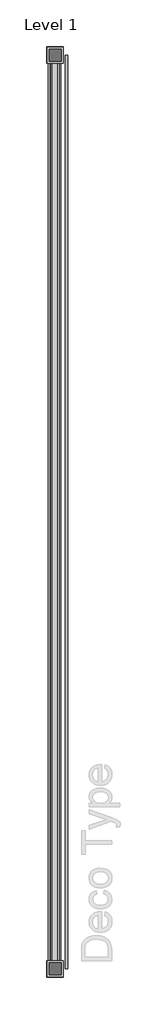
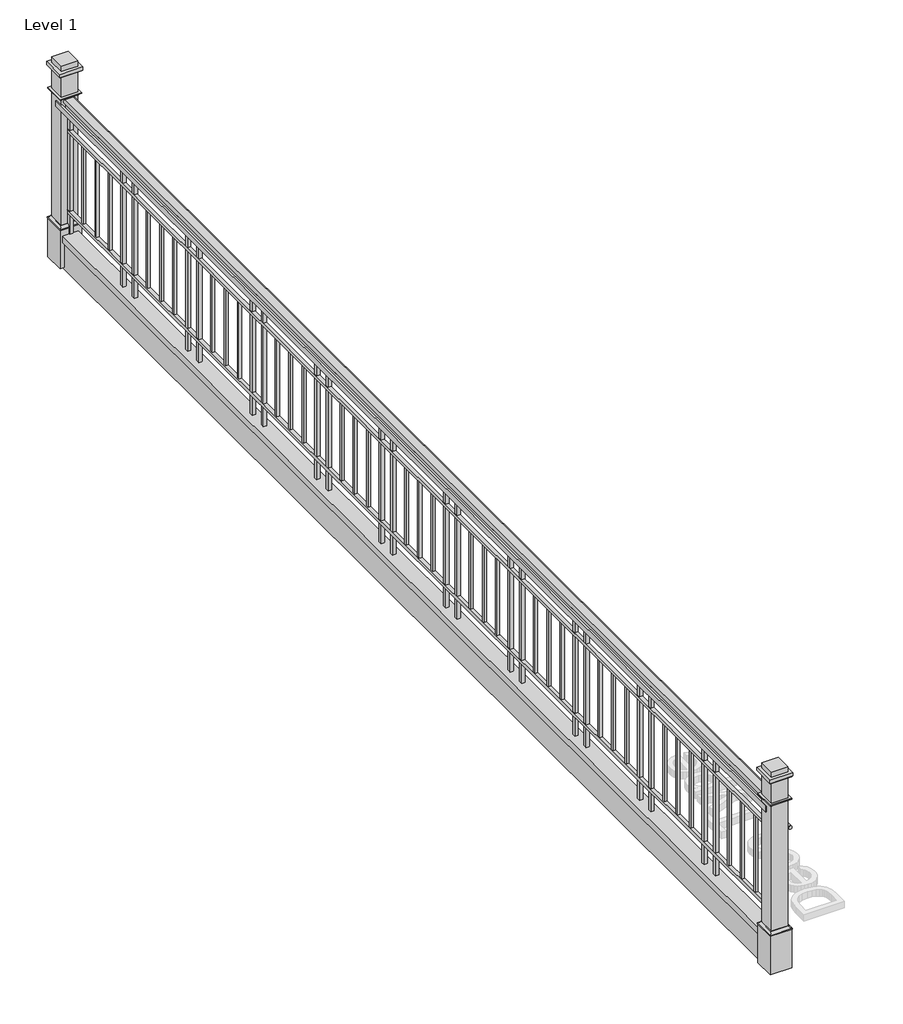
# One storey, part 1 of 14: 1 railing.
"""IFC4 building model written with IfcOpenShell, lengths in millimetres."""

from ifc_helpers import new_model, si_unit, point, frame, frame_2d, origin, place, context, project, spatial, polyline, circle_curve, ellipse_curve, trimmed, segment, composite_curve, outline, extrude, faceted_brep, element, save
from ifc_brep_helpers import plane_surface, revolved_surface, advanced_brep

model = new_model("IFC4")

# Units and contexts
model_context = context("Model", 3, world=origin())
ifc_project = project(units=[si_unit("LENGTHUNIT", "METRE", prefix="MILLI")], contexts=[model_context])

# Site, building, storey
site = spatial("IfcSite", under=ifc_project)
building = spatial("IfcBuilding", under=site)
storey = spatial("IfcBuildingStorey", under=building, Name="Level 1", Elevation=0.0)

# Railing
placement = place(None, origin())
element("IfcRailing", 1, ObjectType="Deco Type", at=placement, inside=storey, context=model_context, shape_type="SolidModel", body=[
    extrude(outline(composite_curve([segment(trimmed(circle_curve(frame_2d((838.2, -18190.5572428)), 12.7), [point((838.2, -18203.2572428))], [point((838.2, -18177.8572428))], False, "CARTESIAN"), True, "CONTINUOUS"), segment(trimmed(circle_curve(frame_2d((838.2, -18190.5572428)), 12.7), [point((838.2, -18177.8572428))], [point((838.2, -18203.2572428))], False, "CARTESIAN"), True, "CONTINUOUS")], self_intersect=False)), frame((0.0, -14575.1393828, 0.0), z_axis=(0.0, 1.0, 0.0), x_axis=(0.0, 0.0, 1.0)), (0.0, 0.0, 1.0), 9144.0),
    extrude(outline(composite_curve([segment(polyline([(1098.55, -18276.0356152), (1098.55, -18339.3853678)]), True, "CONTINUOUS"), segment(trimmed(circle_curve(frame_2d((1087.4058145, -18339.3853678)), 11.1441855), [point((1098.55, -18339.3853678))], [point((1076.261629, -18339.3853678))], False, "CARTESIAN"), True, "CONTINUOUS"), segment(polyline([(1076.261629, -18339.3853678), (1066.8, -18339.3853678), (1066.8, -18276.0356152), (1076.3248415, -18276.0356152)]), True, "CONTINUOUS"), segment(trimmed(circle_curve(frame_2d((1087.4374207, -18276.0356152)), 11.1125793), [point((1076.3248415, -18276.0356152))], [point((1098.55, -18276.0356152))], False, "CARTESIAN"), True, "CONTINUOUS")], self_intersect=False)), frame((0.0, -14575.1393828, 0.0), z_axis=(0.0, 1.0, 0.0), x_axis=(0.0, 0.0, 1.0)), (0.0, 0.0, 1.0), 9144.0),
    extrude(outline(polyline([(-18333.1104915, -5431.1393828), (-18320.4104915, -5431.1393828), (-18320.4104915, -14575.1393828), (-18333.1104915, -14575.1393828), (-18333.1104915, -5431.1393828)])), frame((0.0, 0.0, 1022.35), z_axis=(0.0, 0.0, 1.0), x_axis=(1.0, 0.0, 0.0)), (0.0, 0.0, 1.0), 44.45),
    extrude(outline(polyline([(-18371.2104915, -5431.1393828), (-18358.5104915, -5431.1393828), (-18358.5104915, -14575.1393828), (-18371.2104915, -14575.1393828), (-18371.2104915, -5431.1393828)])), frame((0.0, 0.0, 1022.35), z_axis=(0.0, 0.0, 1.0), x_axis=(1.0, 0.0, 0.0)), (0.0, 0.0, 1.0), 44.45),
    extrude(outline(polyline([(-18320.3353678, -5431.1393828), (-18294.9353678, -5431.1393828), (-18294.9353678, -14575.1393828), (-18320.3353678, -14575.1393828), (-18320.3353678, -5431.1393828)])), frame((0.0, 0.0, 838.2), z_axis=(0.0, 0.0, 1.0), x_axis=(1.0, 0.0, 0.0)), (0.0, 0.0, 1.0), 25.4),
    extrude(outline(polyline([(-18320.3353678, -5431.1393828), (-18294.9353678, -5431.1393828), (-18294.9353678, -14575.1393828), (-18320.3353678, -14575.1393828), (-18320.3353678, -5431.1393828)])), frame((0.0, 0.0, 203.2), z_axis=(0.0, 0.0, 1.0), x_axis=(1.0, 0.0, 0.0)), (0.0, 0.0, 1.0), 25.4),
    extrude(outline(polyline([(49.0362864, -18248.9729915), (49.0362864, -18366.4479915), (0.0, -18366.4479915), (0.0, -18353.7479915), (36.3362864, -18353.7479915), (36.3362864, -18261.6729915), (0.0, -18261.6729915), (0.0, -18248.9729915), (49.0362864, -18248.9729915)])), frame((0.0, -14575.1393828, 0.0), z_axis=(0.0, 1.0, 0.0), x_axis=(0.0, 0.0, 1.0)), (0.0, 0.0, 1.0), 9144.0),
    extrude(outline(polyline([(-18353.7479915, -5431.1393828), (-18261.6729915, -5431.1393828), (-18261.6729915, -14575.1393828), (-18353.7479915, -14575.1393828), (-18353.7479915, -5431.1393828)])), frame((0.0, 0.0, -217.6637136), z_axis=(0.0, 0.0, 1.0), x_axis=(1.0, 0.0, 0.0)), (0.0, 0.0, 1.0), 254.0),
    extrude(outline(polyline([(-18317.5572428, -14489.0917892), (-18292.1572428, -14489.0917892), (-18292.1572428, -14514.4917892), (-18317.5572428, -14514.4917892), (-18317.5572428, -14489.0917892)])), frame((0.0, 0.0, 49.0362864), z_axis=(0.0, 0.0, 1.0), x_axis=(1.0, 0.0, 0.0)), (0.0, 0.0, 1.0), 1017.7637136),
    extrude(outline(polyline([(-18314.3822428, -14321.1224042), (-18295.3322428, -14321.1224042), (-18295.3322428, -14340.1724042), (-18314.3822428, -14340.1724042), (-18314.3822428, -14321.1224042)])), frame((0.0, 0.0, 228.6), z_axis=(0.0, 0.0, 1.0), x_axis=(1.0, 0.0, 0.0)), (0.0, 0.0, 1.0), 609.6),
    extrude(outline(polyline([(-18314.3822428, -14149.9780192), (-18295.3322428, -14149.9780192), (-18295.3322428, -14169.0280192), (-18314.3822428, -14169.0280192), (-18314.3822428, -14149.9780192)])), frame((0.0, 0.0, 228.6), z_axis=(0.0, 0.0, 1.0), x_axis=(1.0, 0.0, 0.0)), (0.0, 0.0, 1.0), 609.6),
    extrude(outline(polyline([(-18314.3822428, -13978.8336342), (-18295.3322428, -13978.8336342), (-18295.3322428, -13997.8836342), (-18314.3822428, -13997.8836342), (-18314.3822428, -13978.8336342)])), frame((0.0, 0.0, 228.6), z_axis=(0.0, 0.0, 1.0), x_axis=(1.0, 0.0, 0.0)), (0.0, 0.0, 1.0), 609.6),
    extrude(outline(polyline([(-18317.5572428, -13804.5142491), (-18292.1572428, -13804.5142491), (-18292.1572428, -13829.9142491), (-18317.5572428, -13829.9142491), (-18317.5572428, -13804.5142491)])), frame((0.0, 0.0, 49.0362864), z_axis=(0.0, 0.0, 1.0), x_axis=(1.0, 0.0, 0.0)), (0.0, 0.0, 1.0), 1017.7637136),
    extrude(outline(polyline([(-18317.5572428, -13657.819062), (-18292.1572428, -13657.819062), (-18292.1572428, -13683.219062), (-18317.5572428, -13683.219062), (-18317.5572428, -13657.819062)])), frame((0.0, 0.0, 49.0362864), z_axis=(0.0, 0.0, 1.0), x_axis=(1.0, 0.0, 0.0)), (0.0, 0.0, 1.0), 1017.7637136),
    extrude(outline(polyline([(-18314.3822428, -13489.8496769), (-18295.3322428, -13489.8496769), (-18295.3322428, -13508.8996769), (-18314.3822428, -13508.8996769), (-18314.3822428, -13489.8496769)])), frame((0.0, 0.0, 228.6), z_axis=(0.0, 0.0, 1.0), x_axis=(1.0, 0.0, 0.0)), (0.0, 0.0, 1.0), 609.6),
    extrude(outline(polyline([(-18314.3822428, -13318.7052919), (-18295.3322428, -13318.7052919), (-18295.3322428, -13337.7552919), (-18314.3822428, -13337.7552919), (-18314.3822428, -13318.7052919)])), frame((0.0, 0.0, 228.6), z_axis=(0.0, 0.0, 1.0), x_axis=(1.0, 0.0, 0.0)), (0.0, 0.0, 1.0), 609.6),
    extrude(outline(polyline([(-18314.3822428, -13147.5609069), (-18295.3322428, -13147.5609069), (-18295.3322428, -13166.6109069), (-18314.3822428, -13166.6109069), (-18314.3822428, -13147.5609069)])), frame((0.0, 0.0, 228.6), z_axis=(0.0, 0.0, 1.0), x_axis=(1.0, 0.0, 0.0)), (0.0, 0.0, 1.0), 609.6),
    extrude(outline(polyline([(-18317.5572428, -12973.2415219), (-18292.1572428, -12973.2415219), (-18292.1572428, -12998.6415219), (-18317.5572428, -12998.6415219), (-18317.5572428, -12973.2415219)])), frame((0.0, 0.0, 49.0362864), z_axis=(0.0, 0.0, 1.0), x_axis=(1.0, 0.0, 0.0)), (0.0, 0.0, 1.0), 1017.7637136),
    extrude(outline(polyline([(-18317.5572428, -12826.5463347), (-18292.1572428, -12826.5463347), (-18292.1572428, -12851.9463347), (-18317.5572428, -12851.9463347), (-18317.5572428, -12826.5463347)])), frame((0.0, 0.0, 49.0362864), z_axis=(0.0, 0.0, 1.0), x_axis=(1.0, 0.0, 0.0)), (0.0, 0.0, 1.0), 1017.7637136),
    extrude(outline(polyline([(-18314.3822428, -12658.5769497), (-18295.3322428, -12658.5769497), (-18295.3322428, -12677.6269497), (-18314.3822428, -12677.6269497), (-18314.3822428, -12658.5769497)])), frame((0.0, 0.0, 228.6), z_axis=(0.0, 0.0, 1.0), x_axis=(1.0, 0.0, 0.0)), (0.0, 0.0, 1.0), 609.6),
    extrude(outline(polyline([(-18314.3822428, -12487.4325646), (-18295.3322428, -12487.4325646), (-18295.3322428, -12506.4825646), (-18314.3822428, -12506.4825646), (-18314.3822428, -12487.4325646)])), frame((0.0, 0.0, 228.6), z_axis=(0.0, 0.0, 1.0), x_axis=(1.0, 0.0, 0.0)), (0.0, 0.0, 1.0), 609.6),
    extrude(outline(polyline([(-18314.3822428, -12316.2881796), (-18295.3322428, -12316.2881796), (-18295.3322428, -12335.3381796), (-18314.3822428, -12335.3381796), (-18314.3822428, -12316.2881796)])), frame((0.0, 0.0, 228.6), z_axis=(0.0, 0.0, 1.0), x_axis=(1.0, 0.0, 0.0)), (0.0, 0.0, 1.0), 609.6),
    extrude(outline(polyline([(-18317.5572428, -12141.9687946), (-18292.1572428, -12141.9687946), (-18292.1572428, -12167.3687946), (-18317.5572428, -12167.3687946), (-18317.5572428, -12141.9687946)])), frame((0.0, 0.0, 49.0362864), z_axis=(0.0, 0.0, 1.0), x_axis=(1.0, 0.0, 0.0)), (0.0, 0.0, 1.0), 1017.7637136),
    extrude(outline(polyline([(-18317.5572428, -11995.2736074), (-18292.1572428, -11995.2736074), (-18292.1572428, -12020.6736074), (-18317.5572428, -12020.6736074), (-18317.5572428, -11995.2736074)])), frame((0.0, 0.0, 49.0362864), z_axis=(0.0, 0.0, 1.0), x_axis=(1.0, 0.0, 0.0)), (0.0, 0.0, 1.0), 1017.7637136),
    extrude(outline(polyline([(-18314.3822428, -11827.3042224), (-18295.3322428, -11827.3042224), (-18295.3322428, -11846.3542224), (-18314.3822428, -11846.3542224), (-18314.3822428, -11827.3042224)])), frame((0.0, 0.0, 228.6), z_axis=(0.0, 0.0, 1.0), x_axis=(1.0, 0.0, 0.0)), (0.0, 0.0, 1.0), 609.6),
    extrude(outline(polyline([(-18314.3822428, -11656.1598374), (-18295.3322428, -11656.1598374), (-18295.3322428, -11675.2098374), (-18314.3822428, -11675.2098374), (-18314.3822428, -11656.1598374)])), frame((0.0, 0.0, 228.6), z_axis=(0.0, 0.0, 1.0), x_axis=(1.0, 0.0, 0.0)), (0.0, 0.0, 1.0), 609.6),
    extrude(outline(polyline([(-18314.3822428, -11485.0154523), (-18295.3322428, -11485.0154523), (-18295.3322428, -11504.0654523), (-18314.3822428, -11504.0654523), (-18314.3822428, -11485.0154523)])), frame((0.0, 0.0, 228.6), z_axis=(0.0, 0.0, 1.0), x_axis=(1.0, 0.0, 0.0)), (0.0, 0.0, 1.0), 609.6),
    extrude(outline(polyline([(-18317.5572428, -11310.6960673), (-18292.1572428, -11310.6960673), (-18292.1572428, -11336.0960673), (-18317.5572428, -11336.0960673), (-18317.5572428, -11310.6960673)])), frame((0.0, 0.0, 49.0362864), z_axis=(0.0, 0.0, 1.0), x_axis=(1.0, 0.0, 0.0)), (0.0, 0.0, 1.0), 1017.7637136),
    extrude(outline(polyline([(-18317.5572428, -11164.0008801), (-18292.1572428, -11164.0008801), (-18292.1572428, -11189.4008801), (-18317.5572428, -11189.4008801), (-18317.5572428, -11164.0008801)])), frame((0.0, 0.0, 49.0362864), z_axis=(0.0, 0.0, 1.0), x_axis=(1.0, 0.0, 0.0)), (0.0, 0.0, 1.0), 1017.7637136),
    extrude(outline(polyline([(-18314.3822428, -10996.0314951), (-18295.3322428, -10996.0314951), (-18295.3322428, -11015.0814951), (-18314.3822428, -11015.0814951), (-18314.3822428, -10996.0314951)])), frame((0.0, 0.0, 228.6), z_axis=(0.0, 0.0, 1.0), x_axis=(1.0, 0.0, 0.0)), (0.0, 0.0, 1.0), 609.6),
    extrude(outline(polyline([(-18314.3822428, -10824.8871101), (-18295.3322428, -10824.8871101), (-18295.3322428, -10843.9371101), (-18314.3822428, -10843.9371101), (-18314.3822428, -10824.8871101)])), frame((0.0, 0.0, 228.6), z_axis=(0.0, 0.0, 1.0), x_axis=(1.0, 0.0, 0.0)), (0.0, 0.0, 1.0), 609.6),
    extrude(outline(polyline([(-18314.3822428, -10653.7427251), (-18295.3322428, -10653.7427251), (-18295.3322428, -10672.7927251), (-18314.3822428, -10672.7927251), (-18314.3822428, -10653.7427251)])), frame((0.0, 0.0, 228.6), z_axis=(0.0, 0.0, 1.0), x_axis=(1.0, 0.0, 0.0)), (0.0, 0.0, 1.0), 609.6),
    extrude(outline(polyline([(-18317.5572428, -10479.42334), (-18292.1572428, -10479.42334), (-18292.1572428, -10504.82334), (-18317.5572428, -10504.82334), (-18317.5572428, -10479.42334)])), frame((0.0, 0.0, 49.0362864), z_axis=(0.0, 0.0, 1.0), x_axis=(1.0, 0.0, 0.0)), (0.0, 0.0, 1.0), 1017.7637136),
    extrude(outline(polyline([(-18317.5572428, -10332.7281529), (-18292.1572428, -10332.7281529), (-18292.1572428, -10358.1281529), (-18317.5572428, -10358.1281529), (-18317.5572428, -10332.7281529)])), frame((0.0, 0.0, 49.0362864), z_axis=(0.0, 0.0, 1.0), x_axis=(1.0, 0.0, 0.0)), (0.0, 0.0, 1.0), 1017.7637136),
    extrude(outline(polyline([(-18314.3822428, -10164.7587678), (-18295.3322428, -10164.7587678), (-18295.3322428, -10183.8087678), (-18314.3822428, -10183.8087678), (-18314.3822428, -10164.7587678)])), frame((0.0, 0.0, 228.6), z_axis=(0.0, 0.0, 1.0), x_axis=(1.0, 0.0, 0.0)), (0.0, 0.0, 1.0), 609.6),
    extrude(outline(polyline([(-18314.3822428, -9993.6143828), (-18295.3322428, -9993.6143828), (-18295.3322428, -10012.6643828), (-18314.3822428, -10012.6643828), (-18314.3822428, -9993.6143828)])), frame((0.0, 0.0, 228.6), z_axis=(0.0, 0.0, 1.0), x_axis=(1.0, 0.0, 0.0)), (0.0, 0.0, 1.0), 609.6),
    extrude(outline(polyline([(-18314.3822428, -9822.4699978), (-18295.3322428, -9822.4699978), (-18295.3322428, -9841.5199978), (-18314.3822428, -9841.5199978), (-18314.3822428, -9822.4699978)])), frame((0.0, 0.0, 228.6), z_axis=(0.0, 0.0, 1.0), x_axis=(1.0, 0.0, 0.0)), (0.0, 0.0, 1.0), 609.6),
    extrude(outline(polyline([(-18317.5572428, -9648.1506128), (-18292.1572428, -9648.1506128), (-18292.1572428, -9673.5506128), (-18317.5572428, -9673.5506128), (-18317.5572428, -9648.1506128)])), frame((0.0, 0.0, 49.0362864), z_axis=(0.0, 0.0, 1.0), x_axis=(1.0, 0.0, 0.0)), (0.0, 0.0, 1.0), 1017.7637136),
    extrude(outline(polyline([(-18317.5572428, -9501.4554256), (-18292.1572428, -9501.4554256), (-18292.1572428, -9526.8554256), (-18317.5572428, -9526.8554256), (-18317.5572428, -9501.4554256)])), frame((0.0, 0.0, 49.0362864), z_axis=(0.0, 0.0, 1.0), x_axis=(1.0, 0.0, 0.0)), (0.0, 0.0, 1.0), 1017.7637136),
    extrude(outline(polyline([(-18314.3822428, -9333.4860406), (-18295.3322428, -9333.4860406), (-18295.3322428, -9352.5360406), (-18314.3822428, -9352.5360406), (-18314.3822428, -9333.4860406)])), frame((0.0, 0.0, 228.6), z_axis=(0.0, 0.0, 1.0), x_axis=(1.0, 0.0, 0.0)), (0.0, 0.0, 1.0), 609.6),
    extrude(outline(polyline([(-18314.3822428, -9162.3416556), (-18295.3322428, -9162.3416556), (-18295.3322428, -9181.3916556), (-18314.3822428, -9181.3916556), (-18314.3822428, -9162.3416556)])), frame((0.0, 0.0, 228.6), z_axis=(0.0, 0.0, 1.0), x_axis=(1.0, 0.0, 0.0)), (0.0, 0.0, 1.0), 609.6),
    extrude(outline(polyline([(-18314.3822428, -8991.1972705), (-18295.3322428, -8991.1972705), (-18295.3322428, -9010.2472705), (-18314.3822428, -9010.2472705), (-18314.3822428, -8991.1972705)])), frame((0.0, 0.0, 228.6), z_axis=(0.0, 0.0, 1.0), x_axis=(1.0, 0.0, 0.0)), (0.0, 0.0, 1.0), 609.6),
    extrude(outline(polyline([(-18317.5572428, -8816.8778855), (-18292.1572428, -8816.8778855), (-18292.1572428, -8842.2778855), (-18317.5572428, -8842.2778855), (-18317.5572428, -8816.8778855)])), frame((0.0, 0.0, 49.0362864), z_axis=(0.0, 0.0, 1.0), x_axis=(1.0, 0.0, 0.0)), (0.0, 0.0, 1.0), 1017.7637136),
    extrude(outline(polyline([(-18317.5572428, -8670.1826983), (-18292.1572428, -8670.1826983), (-18292.1572428, -8695.5826983), (-18317.5572428, -8695.5826983), (-18317.5572428, -8670.1826983)])), frame((0.0, 0.0, 49.0362864), z_axis=(0.0, 0.0, 1.0), x_axis=(1.0, 0.0, 0.0)), (0.0, 0.0, 1.0), 1017.7637136),
    extrude(outline(polyline([(-18314.3822428, -8502.2133133), (-18295.3322428, -8502.2133133), (-18295.3322428, -8521.2633133), (-18314.3822428, -8521.2633133), (-18314.3822428, -8502.2133133)])), frame((0.0, 0.0, 228.6), z_axis=(0.0, 0.0, 1.0), x_axis=(1.0, 0.0, 0.0)), (0.0, 0.0, 1.0), 609.6),
    extrude(outline(polyline([(-18314.3822428, -8331.0689283), (-18295.3322428, -8331.0689283), (-18295.3322428, -8350.1189283), (-18314.3822428, -8350.1189283), (-18314.3822428, -8331.0689283)])), frame((0.0, 0.0, 228.6), z_axis=(0.0, 0.0, 1.0), x_axis=(1.0, 0.0, 0.0)), (0.0, 0.0, 1.0), 609.6),
    extrude(outline(polyline([(-18314.3822428, -8159.9245433), (-18295.3322428, -8159.9245433), (-18295.3322428, -8178.9745433), (-18314.3822428, -8178.9745433), (-18314.3822428, -8159.9245433)])), frame((0.0, 0.0, 228.6), z_axis=(0.0, 0.0, 1.0), x_axis=(1.0, 0.0, 0.0)), (0.0, 0.0, 1.0), 609.6),
    extrude(outline(polyline([(-18317.5572428, -7985.6051582), (-18292.1572428, -7985.6051582), (-18292.1572428, -8011.0051582), (-18317.5572428, -8011.0051582), (-18317.5572428, -7985.6051582)])), frame((0.0, 0.0, 49.0362864), z_axis=(0.0, 0.0, 1.0), x_axis=(1.0, 0.0, 0.0)), (0.0, 0.0, 1.0), 1017.7637136),
    extrude(outline(polyline([(-18317.5572428, -7838.9099711), (-18292.1572428, -7838.9099711), (-18292.1572428, -7864.3099711), (-18317.5572428, -7864.3099711), (-18317.5572428, -7838.9099711)])), frame((0.0, 0.0, 49.0362864), z_axis=(0.0, 0.0, 1.0), x_axis=(1.0, 0.0, 0.0)), (0.0, 0.0, 1.0), 1017.7637136),
    extrude(outline(polyline([(-18314.3822428, -7670.940586), (-18295.3322428, -7670.940586), (-18295.3322428, -7689.990586), (-18314.3822428, -7689.990586), (-18314.3822428, -7670.940586)])), frame((0.0, 0.0, 228.6), z_axis=(0.0, 0.0, 1.0), x_axis=(1.0, 0.0, 0.0)), (0.0, 0.0, 1.0), 609.6),
    extrude(outline(polyline([(-18314.3822428, -7499.796201), (-18295.3322428, -7499.796201), (-18295.3322428, -7518.846201), (-18314.3822428, -7518.846201), (-18314.3822428, -7499.796201)])), frame((0.0, 0.0, 228.6), z_axis=(0.0, 0.0, 1.0), x_axis=(1.0, 0.0, 0.0)), (0.0, 0.0, 1.0), 609.6),
    extrude(outline(polyline([(-18314.3822428, -7328.651816), (-18295.3322428, -7328.651816), (-18295.3322428, -7347.701816), (-18314.3822428, -7347.701816), (-18314.3822428, -7328.651816)])), frame((0.0, 0.0, 228.6), z_axis=(0.0, 0.0, 1.0), x_axis=(1.0, 0.0, 0.0)), (0.0, 0.0, 1.0), 609.6),
    extrude(outline(polyline([(-18317.5572428, -7154.332431), (-18292.1572428, -7154.332431), (-18292.1572428, -7179.732431), (-18317.5572428, -7179.732431), (-18317.5572428, -7154.332431)])), frame((0.0, 0.0, 49.0362864), z_axis=(0.0, 0.0, 1.0), x_axis=(1.0, 0.0, 0.0)), (0.0, 0.0, 1.0), 1017.7637136),
    extrude(outline(polyline([(-18317.5572428, -7007.6372438), (-18292.1572428, -7007.6372438), (-18292.1572428, -7033.0372438), (-18317.5572428, -7033.0372438), (-18317.5572428, -7007.6372438)])), frame((0.0, 0.0, 49.0362864), z_axis=(0.0, 0.0, 1.0), x_axis=(1.0, 0.0, 0.0)), (0.0, 0.0, 1.0), 1017.7637136),
    extrude(outline(polyline([(-18314.3822428, -6839.6678588), (-18295.3322428, -6839.6678588), (-18295.3322428, -6858.7178588), (-18314.3822428, -6858.7178588), (-18314.3822428, -6839.6678588)])), frame((0.0, 0.0, 228.6), z_axis=(0.0, 0.0, 1.0), x_axis=(1.0, 0.0, 0.0)), (0.0, 0.0, 1.0), 609.6),
    extrude(outline(polyline([(-18314.3822428, -6668.5234737), (-18295.3322428, -6668.5234737), (-18295.3322428, -6687.5734737), (-18314.3822428, -6687.5734737), (-18314.3822428, -6668.5234737)])), frame((0.0, 0.0, 228.6), z_axis=(0.0, 0.0, 1.0), x_axis=(1.0, 0.0, 0.0)), (0.0, 0.0, 1.0), 609.6),
    extrude(outline(polyline([(-18314.3822428, -6497.3790887), (-18295.3322428, -6497.3790887), (-18295.3322428, -6516.4290887), (-18314.3822428, -6516.4290887), (-18314.3822428, -6497.3790887)])), frame((0.0, 0.0, 228.6), z_axis=(0.0, 0.0, 1.0), x_axis=(1.0, 0.0, 0.0)), (0.0, 0.0, 1.0), 609.6),
    extrude(outline(polyline([(-18317.5572428, -6323.0597037), (-18292.1572428, -6323.0597037), (-18292.1572428, -6348.4597037), (-18317.5572428, -6348.4597037), (-18317.5572428, -6323.0597037)])), frame((0.0, 0.0, 49.0362864), z_axis=(0.0, 0.0, 1.0), x_axis=(1.0, 0.0, 0.0)), (0.0, 0.0, 1.0), 1017.7637136),
    extrude(outline(polyline([(-18317.5572428, -6176.3645165), (-18292.1572428, -6176.3645165), (-18292.1572428, -6201.7645165), (-18317.5572428, -6201.7645165), (-18317.5572428, -6176.3645165)])), frame((0.0, 0.0, 49.0362864), z_axis=(0.0, 0.0, 1.0), x_axis=(1.0, 0.0, 0.0)), (0.0, 0.0, 1.0), 1017.7637136),
    extrude(outline(polyline([(-18314.3822428, -6008.3951315), (-18295.3322428, -6008.3951315), (-18295.3322428, -6027.4451315), (-18314.3822428, -6027.4451315), (-18314.3822428, -6008.3951315)])), frame((0.0, 0.0, 228.6), z_axis=(0.0, 0.0, 1.0), x_axis=(1.0, 0.0, 0.0)), (0.0, 0.0, 1.0), 609.6),
    extrude(outline(polyline([(-18314.3822428, -5837.2507465), (-18295.3322428, -5837.2507465), (-18295.3322428, -5856.3007465), (-18314.3822428, -5856.3007465), (-18314.3822428, -5837.2507465)])), frame((0.0, 0.0, 228.6), z_axis=(0.0, 0.0, 1.0), x_axis=(1.0, 0.0, 0.0)), (0.0, 0.0, 1.0), 609.6),
    extrude(outline(polyline([(-18314.3822428, -5666.1063614), (-18295.3322428, -5666.1063614), (-18295.3322428, -5685.1563614), (-18314.3822428, -5685.1563614), (-18314.3822428, -5666.1063614)])), frame((0.0, 0.0, 228.6), z_axis=(0.0, 0.0, 1.0), x_axis=(1.0, 0.0, 0.0)), (0.0, 0.0, 1.0), 609.6),
    extrude(outline(polyline([(-18317.5572428, -5491.7869764), (-18292.1572428, -5491.7869764), (-18292.1572428, -5517.1869764), (-18317.5572428, -5517.1869764), (-18317.5572428, -5491.7869764)])), frame((0.0, 0.0, 49.0362864), z_axis=(0.0, 0.0, 1.0), x_axis=(1.0, 0.0, 0.0)), (0.0, 0.0, 1.0), 1017.7637136),
    extrude(outline(polyline([(-18225.4822428, -14495.7643828), (-18225.4822428, -14654.5143828), (-18384.2322428, -14654.5143828), (-18384.2322428, -14495.7643828), (-18225.4822428, -14495.7643828)])), frame((0.0, 0.0, -203.2), z_axis=(0.0, 0.0, 1.0), x_axis=(1.0, 0.0, 0.0)), (0.0, 0.0, 1.0), 304.8),
    extrude(outline(polyline([(-18244.5322428, -14514.8143828), (-18244.5322428, -14635.4643828), (-18365.1822428, -14635.4643828), (-18365.1822428, -14514.8143828), (-18244.5322428, -14514.8143828)])), frame((0.0, 0.0, 101.6), z_axis=(0.0, 0.0, 1.0), x_axis=(1.0, 0.0, 0.0)), (0.0, 0.0, 1.0), 1270.0),
    extrude(outline(polyline([(-18390.5822428, -14489.4143828), (-18219.1322428, -14489.4143828), (-18219.1322428, -14660.8643828), (-18390.5822428, -14660.8643828), (-18390.5822428, -14489.4143828)]), holes=[polyline([(-18365.1822428, -14635.4643828), (-18244.5322428, -14635.4643828), (-18244.5322428, -14514.8143828), (-18365.1822428, -14514.8143828), (-18365.1822428, -14635.4643828)])]), frame((0.0, 0.0, 1304.925), z_axis=(0.0, 0.0, 1.0), x_axis=(1.0, 0.0, 0.0)), (0.0, 0.0, 1.0), 25.4),
    advanced_brep(
    [(-18365.1822428, -14514.8143828, 101.6), (-18365.1822428, -14514.8143828, 123.825), (-18365.1822428, -14635.4643828, 123.825), (-18365.1822428, -14635.4643828, 101.6), (-18387.4072428, -14492.5893828, 107.95), (-18387.4072428, -14492.5893828, 101.6), (-18387.4072428, -14657.6893828, 101.6), (-18387.4072428, -14657.6893828, 107.95), (-18371.5322428, -14508.4643828, 123.825), (-18371.5322428, -14641.8143828, 123.825), (-18244.5322428, -14635.4643828, 123.825), (-18244.5322428, -14635.4643828, 101.6), (-18222.3072428, -14657.6893828, 101.6), (-18222.3072428, -14657.6893828, 107.95), (-18238.1822428, -14641.8143828, 123.825), (-18244.5322428, -14514.8143828, 123.825), (-18244.5322428, -14514.8143828, 101.6), (-18222.3072428, -14492.5893828, 101.6), (-18222.3072428, -14492.5893828, 107.95), (-18238.1822428, -14508.4643828, 123.825)],
    [
        (0, 1),
        (1, 2),
        (2, 3),
        (3, 0),
        (4, 5),
        (5, 6),
        (6, 7),
        (7, 4),
        (8, 4, ellipse_curve(frame((-18387.4072428, -14492.5893828, 123.825), z_axis=(0.7071067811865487, 0.7071067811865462, 0.0), x_axis=(0.7071067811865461, -0.7071067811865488, 0.0)), 22.4506403, 15.875)),
        (7, 9, ellipse_curve(frame((-18387.4072428, -14657.6893828, 123.825), z_axis=(0.7071067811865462, -0.7071067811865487, 0.0), x_axis=(-0.7071067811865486, -0.7071067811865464, 0.0)), 22.4506403, 15.875)),
        (9, 8),
        (2, 10),
        (10, 11),
        (11, 3),
        (6, 12),
        (12, 13),
        (13, 7),
        (13, 14, ellipse_curve(frame((-18222.3072428, -14657.6893828, 123.825), z_axis=(0.7071067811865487, 0.7071067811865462, 0.0), x_axis=(0.7071067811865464, -0.7071067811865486, 0.0)), 22.4506403, 15.875)),
        (14, 9),
        (10, 15),
        (15, 16),
        (16, 11),
        (12, 17),
        (17, 18),
        (18, 13),
        (18, 19, ellipse_curve(frame((-18222.3072428, -14492.5893828, 123.825), z_axis=(-0.7071067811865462, 0.7071067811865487, 0.0), x_axis=(0.7071067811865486, 0.7071067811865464, 0.0)), 22.4506403, 15.875)),
        (19, 14),
        (15, 1),
        (0, 16),
        (5, 17),
        (4, 18),
        (8, 19),
    ],
    [
        plane_surface(frame((-18365.1822428, -14514.8143828, 123.825), z_axis=(1.0, 0.0, 0.0), x_axis=(0.0, -1.0, 0.0))),
        plane_surface(frame((-18387.4072428, -14492.5893828, 101.6), z_axis=(-1.0, 0.0, 0.0), x_axis=(0.0, -1.0, 0.0))),
        revolved_surface(polyline([(-18371.5322428, -14673.56438279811, 123.825), (-18371.5322428, -14476.71438280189, 123.825)]), (-18387.4072428, -14514.8143828, 123.825), (0.0, -1.0, 0.0)),
        plane_surface(frame((-18365.1822428, -14635.4643828, 123.825), z_axis=(0.0, 1.0, 0.0), x_axis=(1.0, 0.0, 0.0))),
        plane_surface(frame((-18387.4072428, -14657.6893828, 101.6), z_axis=(0.0, -1.0, 0.0), x_axis=(1.0, 0.0, 0.0))),
        revolved_surface(polyline([(-18206.432242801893, -14641.8143828, 123.825), (-18403.28224279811, -14641.8143828, 123.825)]), (-18365.1822428, -14657.6893828, 123.825), (1.0, 0.0, 0.0)),
        plane_surface(frame((-18244.5322428, -14635.4643828, 123.825), z_axis=(-1.0, 0.0, 0.0), x_axis=(0.0, 1.0, 0.0))),
        plane_surface(frame((-18222.3072428, -14657.6893828, 101.6), z_axis=(1.0, 0.0, 0.0), x_axis=(0.0, 1.0, 0.0))),
        revolved_surface(polyline([(-18238.1822428, -14476.71438280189, 123.825), (-18238.1822428, -14673.56438279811, 123.825)]), (-18222.3072428, -14635.4643828, 123.825), (0.0, 1.0, 0.0)),
        plane_surface(frame((-18244.5322428, -14514.8143828, 123.825), z_axis=(0.0, -1.0, 0.0), x_axis=(-1.0, 0.0, 0.0))),
        plane_surface(frame((-18244.5322428, -14514.8143828, 101.6), z_axis=(0.0, 0.0, -1.0), x_axis=(-1.0, 0.0, 0.0))),
        plane_surface(frame((-18222.3072428, -14492.5893828, 101.6), z_axis=(0.0, 1.0, 0.0), x_axis=(-1.0, 0.0, 0.0))),
        revolved_surface(polyline([(-18403.28224279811, -14508.4643828, 123.825), (-18206.432242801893, -14508.4643828, 123.825)]), (-18244.5322428, -14492.5893828, 123.825), (-1.0, 0.0, 0.0)),
        plane_surface(frame((-18238.1822428, -14508.4643828, 123.825), z_axis=(0.0, 0.0, 1.0), x_axis=(-1.0, 0.0, 0.0))),
    ],
    [
        (0, [[1, 2, 3, 4]]),
        (1, [[5, 6, 7, 8]]),
        (2, [[9, -8, 10, 11]]),
        (3, [[-3, 12, 13, 14]]),
        (4, [[-7, 15, 16, 17]]),
        (5, [[-10, -17, 18, 19]]),
        (6, [[-13, 20, 21, 22]]),
        (7, [[-16, 23, 24, 25]]),
        (8, [[-18, -25, 26, 27]]),
        (9, [[-21, 28, -1, 29]]),
        (10, [[30, -23, -15, -6], [-14, -22, -29, -4]]),
        (11, [[-24, -30, -5, 31]]),
        (12, [[-26, -31, -9, 32]]),
        (13, [[-19, -27, -32, -11], [-28, -20, -12, -2]]),
    ],
),
    advanced_brep(
    [(-18365.1822428, -14514.8143828, 1108.075), (-18365.1822428, -14514.8143828, 1127.125), (-18365.1822428, -14635.4643828, 1127.125), (-18365.1822428, -14635.4643828, 1108.075), (-18384.2322428, -14495.7643828, 1120.775), (-18371.5322428, -14508.4643828, 1108.075), (-18371.5322428, -14641.8143828, 1108.075), (-18384.2322428, -14654.5143828, 1120.775), (-18384.2322428, -14495.7643828, 1127.125), (-18384.2322428, -14654.5143828, 1127.125), (-18244.5322428, -14635.4643828, 1127.125), (-18244.5322428, -14635.4643828, 1108.075), (-18238.1822428, -14641.8143828, 1108.075), (-18225.4822428, -14654.5143828, 1120.775), (-18225.4822428, -14654.5143828, 1127.125), (-18244.5322428, -14514.8143828, 1127.125), (-18244.5322428, -14514.8143828, 1108.075), (-18238.1822428, -14508.4643828, 1108.075), (-18225.4822428, -14495.7643828, 1120.775), (-18225.4822428, -14495.7643828, 1127.125)],
    [
        (0, 1),
        (1, 2),
        (2, 3),
        (3, 0),
        (4, 5, ellipse_curve(frame((-18384.2322428, -14495.7643828, 1108.075), z_axis=(0.7071067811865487, 0.7071067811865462, 0.0), x_axis=(0.7071067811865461, -0.7071067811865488, 0.0)), 17.9605122, 12.7)),
        (5, 6),
        (6, 7, ellipse_curve(frame((-18384.2322428, -14654.5143828, 1108.075), z_axis=(0.7071067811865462, -0.7071067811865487, 0.0), x_axis=(-0.7071067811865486, -0.7071067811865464, 0.0)), 17.9605122, 12.7)),
        (7, 4),
        (8, 4),
        (7, 9),
        (9, 8),
        (2, 10),
        (10, 11),
        (11, 3),
        (6, 12),
        (12, 13, ellipse_curve(frame((-18225.4822428, -14654.5143828, 1108.075), z_axis=(0.7071067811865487, 0.7071067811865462, 0.0), x_axis=(0.7071067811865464, -0.7071067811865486, 0.0)), 17.9605122, 12.7)),
        (13, 7),
        (13, 14),
        (14, 9),
        (10, 15),
        (15, 16),
        (16, 11),
        (12, 17),
        (17, 18, ellipse_curve(frame((-18225.4822428, -14495.7643828, 1108.075), z_axis=(-0.7071067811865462, 0.7071067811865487, 0.0), x_axis=(0.7071067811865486, 0.7071067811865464, 0.0)), 17.9605122, 12.7)),
        (18, 13),
        (18, 19),
        (19, 14),
        (19, 8),
        (1, 15),
        (0, 16),
        (5, 17),
        (4, 18),
    ],
    [
        plane_surface(frame((-18365.1822428, -14514.8143828, 1127.125), z_axis=(1.0, 0.0, 0.0), x_axis=(0.0, -1.0, 0.0))),
        revolved_surface(polyline([(-18371.5322428, -14667.214382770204, 1108.075), (-18371.5322428, -14483.064382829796, 1108.075)]), (-18384.2322428, -14514.8143828, 1108.075), (0.0, -1.0, 0.0)),
        plane_surface(frame((-18384.2322428, -14495.7643828, 1120.775), z_axis=(-1.0, 0.0, 0.0), x_axis=(0.0, -1.0, 0.0))),
        plane_surface(frame((-18365.1822428, -14635.4643828, 1127.125), z_axis=(0.0, 1.0, 0.0), x_axis=(1.0, 0.0, 0.0))),
        revolved_surface(polyline([(-18212.7822428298, -14641.8143828, 1108.075), (-18396.932242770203, -14641.8143828, 1108.075)]), (-18365.1822428, -14654.5143828, 1108.075), (1.0, 0.0, 0.0)),
        plane_surface(frame((-18384.2322428, -14654.5143828, 1120.775), z_axis=(0.0, -1.0, 0.0), x_axis=(1.0, 0.0, 0.0))),
        plane_surface(frame((-18244.5322428, -14635.4643828, 1127.125), z_axis=(-1.0, 0.0, 0.0), x_axis=(0.0, 1.0, 0.0))),
        revolved_surface(polyline([(-18238.1822428, -14483.064382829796, 1108.075), (-18238.1822428, -14667.214382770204, 1108.075)]), (-18225.4822428, -14635.4643828, 1108.075), (0.0, 1.0, 0.0)),
        plane_surface(frame((-18225.4822428, -14654.5143828, 1120.775), z_axis=(1.0, 0.0, 0.0), x_axis=(0.0, 1.0, 0.0))),
        plane_surface(frame((-18225.4822428, -14495.7643828, 1127.125), z_axis=(0.0, 0.0, 1.0), x_axis=(-1.0, 0.0, 0.0))),
        plane_surface(frame((-18244.5322428, -14514.8143828, 1127.125), z_axis=(0.0, -1.0, 0.0), x_axis=(-1.0, 0.0, 0.0))),
        plane_surface(frame((-18244.5322428, -14514.8143828, 1108.075), z_axis=(0.0, 0.0, -1.0), x_axis=(-1.0, 0.0, 0.0))),
        revolved_surface(polyline([(-18396.932242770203, -14508.4643828, 1108.075), (-18212.7822428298, -14508.4643828, 1108.075)]), (-18244.5322428, -14495.7643828, 1108.075), (-1.0, 0.0, 0.0)),
        plane_surface(frame((-18225.4822428, -14495.7643828, 1120.775), z_axis=(0.0, 1.0, 0.0), x_axis=(-1.0, 0.0, 0.0))),
    ],
    [
        (0, [[1, 2, 3, 4]]),
        (1, [[5, 6, 7, 8]]),
        (2, [[9, -8, 10, 11]]),
        (3, [[-3, 12, 13, 14]]),
        (4, [[-7, 15, 16, 17]]),
        (5, [[-10, -17, 18, 19]]),
        (6, [[-13, 20, 21, 22]]),
        (7, [[-16, 23, 24, 25]]),
        (8, [[-18, -25, 26, 27]]),
        (9, [[-19, -27, 28, -11], [29, -20, -12, -2]]),
        (10, [[-21, -29, -1, 30]]),
        (11, [[31, -23, -15, -6], [-14, -22, -30, -4]]),
        (12, [[-24, -31, -5, 32]]),
        (13, [[-26, -32, -9, -28]]),
    ],
),
    faceted_brep([(-18365.1822428, -14514.8143828, 1285.875), (-18365.1822428, -14514.8143828, 1304.925), (-18365.1822428, -14635.4643828, 1304.925), (-18365.1822428, -14635.4643828, 1285.875), (-18371.5322428, -14508.4643828, 1298.575), (-18371.5322428, -14508.4643828, 1285.875), (-18371.5322428, -14641.8143828, 1285.875), (-18371.5322428, -14641.8143828, 1298.575), (-18384.2322428, -14495.7643828, 1304.925), (-18384.2322428, -14495.7643828, 1298.575), (-18384.2322428, -14654.5143828, 1298.575), (-18384.2322428, -14654.5143828, 1304.925), (-18244.5322428, -14635.4643828, 1304.925), (-18244.5322428, -14635.4643828, 1285.875), (-18238.1822428, -14641.8143828, 1285.875), (-18238.1822428, -14641.8143828, 1298.575), (-18225.4822428, -14654.5143828, 1298.575), (-18225.4822428, -14654.5143828, 1304.925), (-18244.5322428, -14514.8143828, 1304.925), (-18244.5322428, -14514.8143828, 1285.875), (-18238.1822428, -14508.4643828, 1285.875), (-18238.1822428, -14508.4643828, 1298.575), (-18225.4822428, -14495.7643828, 1298.575), (-18225.4822428, -14495.7643828, 1304.925)], [[[0, 1, 2, 3]], [[4, 5, 6, 7]], [[8, 9, 10, 11]], [[3, 2, 12, 13]], [[7, 6, 14, 15]], [[11, 10, 16, 17]], [[13, 12, 18, 19]], [[15, 14, 20, 21]], [[17, 16, 22, 23]], [[19, 18, 1, 0]], [[5, 20, 14, 6], [3, 13, 19, 0]], [[21, 20, 5, 4]], [[9, 22, 16, 10], [7, 15, 21, 4]], [[23, 22, 9, 8]], [[11, 17, 23, 8], [1, 18, 12, 2]]]),
    extrude(outline(polyline([(-18225.4822428, -5351.7643828), (-18225.4822428, -5510.5143828), (-18384.2322428, -5510.5143828), (-18384.2322428, -5351.7643828), (-18225.4822428, -5351.7643828)])), frame((0.0, 0.0, -203.2), z_axis=(0.0, 0.0, 1.0), x_axis=(1.0, 0.0, 0.0)), (0.0, 0.0, 1.0), 304.8),
    extrude(outline(polyline([(-18244.5322428, -5370.8143828), (-18244.5322428, -5491.4643828), (-18365.1822428, -5491.4643828), (-18365.1822428, -5370.8143828), (-18244.5322428, -5370.8143828)])), frame((0.0, 0.0, 101.6), z_axis=(0.0, 0.0, 1.0), x_axis=(1.0, 0.0, 0.0)), (0.0, 0.0, 1.0), 1270.0),
    extrude(outline(polyline([(-18390.5822428, -5345.4143828), (-18219.1322428, -5345.4143828), (-18219.1322428, -5516.8643828), (-18390.5822428, -5516.8643828), (-18390.5822428, -5345.4143828)]), holes=[polyline([(-18365.1822428, -5491.4643828), (-18244.5322428, -5491.4643828), (-18244.5322428, -5370.8143828), (-18365.1822428, -5370.8143828), (-18365.1822428, -5491.4643828)])]), frame((0.0, 0.0, 1304.925), z_axis=(0.0, 0.0, 1.0), x_axis=(1.0, 0.0, 0.0)), (0.0, 0.0, 1.0), 25.4),
    advanced_brep(
    [(-18365.1822428, -5370.8143828, 101.6), (-18365.1822428, -5370.8143828, 123.825), (-18365.1822428, -5491.4643828, 123.825), (-18365.1822428, -5491.4643828, 101.6), (-18387.4072428, -5348.5893828, 107.95), (-18387.4072428, -5348.5893828, 101.6), (-18387.4072428, -5513.6893828, 101.6), (-18387.4072428, -5513.6893828, 107.95), (-18371.5322428, -5364.4643828, 123.825), (-18371.5322428, -5497.8143828, 123.825), (-18244.5322428, -5491.4643828, 123.825), (-18244.5322428, -5491.4643828, 101.6), (-18222.3072428, -5513.6893828, 101.6), (-18222.3072428, -5513.6893828, 107.95), (-18238.1822428, -5497.8143828, 123.825), (-18244.5322428, -5370.8143828, 123.825), (-18244.5322428, -5370.8143828, 101.6), (-18222.3072428, -5348.5893828, 101.6), (-18222.3072428, -5348.5893828, 107.95), (-18238.1822428, -5364.4643828, 123.825)],
    [
        (0, 1),
        (1, 2),
        (2, 3),
        (3, 0),
        (4, 5),
        (5, 6),
        (6, 7),
        (7, 4),
        (8, 4, ellipse_curve(frame((-18387.4072428, -5348.5893828, 123.825), z_axis=(0.7071067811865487, 0.7071067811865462, 0.0), x_axis=(0.7071067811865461, -0.7071067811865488, 0.0)), 22.4506403, 15.875)),
        (7, 9, ellipse_curve(frame((-18387.4072428, -5513.6893828, 123.825), z_axis=(0.7071067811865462, -0.7071067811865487, 0.0), x_axis=(-0.7071067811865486, -0.7071067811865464, 0.0)), 22.4506403, 15.875)),
        (9, 8),
        (2, 10),
        (10, 11),
        (11, 3),
        (6, 12),
        (12, 13),
        (13, 7),
        (13, 14, ellipse_curve(frame((-18222.3072428, -5513.6893828, 123.825), z_axis=(0.7071067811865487, 0.7071067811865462, 0.0), x_axis=(0.7071067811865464, -0.7071067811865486, 0.0)), 22.4506403, 15.875)),
        (14, 9),
        (10, 15),
        (15, 16),
        (16, 11),
        (12, 17),
        (17, 18),
        (18, 13),
        (18, 19, ellipse_curve(frame((-18222.3072428, -5348.5893828, 123.825), z_axis=(-0.7071067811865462, 0.7071067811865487, 0.0), x_axis=(0.7071067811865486, 0.7071067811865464, 0.0)), 22.4506403, 15.875)),
        (19, 14),
        (15, 1),
        (0, 16),
        (5, 17),
        (4, 18),
        (8, 19),
    ],
    [
        plane_surface(frame((-18365.1822428, -5370.8143828, 123.825), z_axis=(1.0, 0.0, 0.0), x_axis=(0.0, -1.0, 0.0))),
        plane_surface(frame((-18387.4072428, -5348.5893828, 101.6), z_axis=(-1.0, 0.0, 0.0), x_axis=(0.0, -1.0, 0.0))),
        revolved_surface(polyline([(-18371.5322428, -5529.56438279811, 123.825), (-18371.5322428, -5332.71438280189, 123.825)]), (-18387.4072428, -5370.8143828, 123.825), (0.0, -1.0, 0.0)),
        plane_surface(frame((-18365.1822428, -5491.4643828, 123.825), z_axis=(0.0, 1.0, 0.0), x_axis=(1.0, 0.0, 0.0))),
        plane_surface(frame((-18387.4072428, -5513.6893828, 101.6), z_axis=(0.0, -1.0, 0.0), x_axis=(1.0, 0.0, 0.0))),
        revolved_surface(polyline([(-18206.432242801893, -5497.8143828, 123.825), (-18403.28224279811, -5497.8143828, 123.825)]), (-18365.1822428, -5513.6893828, 123.825), (1.0, 0.0, 0.0)),
        plane_surface(frame((-18244.5322428, -5491.4643828, 123.825), z_axis=(-1.0, 0.0, 0.0), x_axis=(0.0, 1.0, 0.0))),
        plane_surface(frame((-18222.3072428, -5513.6893828, 101.6), z_axis=(1.0, 0.0, 0.0), x_axis=(0.0, 1.0, 0.0))),
        revolved_surface(polyline([(-18238.1822428, -5332.71438280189, 123.825), (-18238.1822428, -5529.56438279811, 123.825)]), (-18222.3072428, -5491.4643828, 123.825), (0.0, 1.0, 0.0)),
        plane_surface(frame((-18244.5322428, -5370.8143828, 123.825), z_axis=(0.0, -1.0, 0.0), x_axis=(-1.0, 0.0, 0.0))),
        plane_surface(frame((-18244.5322428, -5370.8143828, 101.6), z_axis=(0.0, 0.0, -1.0), x_axis=(-1.0, 0.0, 0.0))),
        plane_surface(frame((-18222.3072428, -5348.5893828, 101.6), z_axis=(0.0, 1.0, 0.0), x_axis=(-1.0, 0.0, 0.0))),
        revolved_surface(polyline([(-18403.28224279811, -5364.4643828, 123.825), (-18206.432242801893, -5364.4643828, 123.825)]), (-18244.5322428, -5348.5893828, 123.825), (-1.0, 0.0, 0.0)),
        plane_surface(frame((-18238.1822428, -5364.4643828, 123.825), z_axis=(0.0, 0.0, 1.0), x_axis=(-1.0, 0.0, 0.0))),
    ],
    [
        (0, [[1, 2, 3, 4]]),
        (1, [[5, 6, 7, 8]]),
        (2, [[9, -8, 10, 11]]),
        (3, [[-3, 12, 13, 14]]),
        (4, [[-7, 15, 16, 17]]),
        (5, [[-10, -17, 18, 19]]),
        (6, [[-13, 20, 21, 22]]),
        (7, [[-16, 23, 24, 25]]),
        (8, [[-18, -25, 26, 27]]),
        (9, [[-21, 28, -1, 29]]),
        (10, [[30, -23, -15, -6], [-14, -22, -29, -4]]),
        (11, [[-24, -30, -5, 31]]),
        (12, [[-26, -31, -9, 32]]),
        (13, [[-19, -27, -32, -11], [-28, -20, -12, -2]]),
    ],
),
    advanced_brep(
    [(-18365.1822428, -5370.8143828, 1108.075), (-18365.1822428, -5370.8143828, 1127.125), (-18365.1822428, -5491.4643828, 1127.125), (-18365.1822428, -5491.4643828, 1108.075), (-18384.2322428, -5351.7643828, 1120.775), (-18371.5322428, -5364.4643828, 1108.075), (-18371.5322428, -5497.8143828, 1108.075), (-18384.2322428, -5510.5143828, 1120.775), (-18384.2322428, -5351.7643828, 1127.125), (-18384.2322428, -5510.5143828, 1127.125), (-18244.5322428, -5491.4643828, 1127.125), (-18244.5322428, -5491.4643828, 1108.075), (-18238.1822428, -5497.8143828, 1108.075), (-18225.4822428, -5510.5143828, 1120.775), (-18225.4822428, -5510.5143828, 1127.125), (-18244.5322428, -5370.8143828, 1127.125), (-18244.5322428, -5370.8143828, 1108.075), (-18238.1822428, -5364.4643828, 1108.075), (-18225.4822428, -5351.7643828, 1120.775), (-18225.4822428, -5351.7643828, 1127.125)],
    [
        (0, 1),
        (1, 2),
        (2, 3),
        (3, 0),
        (4, 5, ellipse_curve(frame((-18384.2322428, -5351.7643828, 1108.075), z_axis=(0.7071067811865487, 0.7071067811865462, 0.0), x_axis=(0.7071067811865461, -0.7071067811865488, 0.0)), 17.9605122, 12.7)),
        (5, 6),
        (6, 7, ellipse_curve(frame((-18384.2322428, -5510.5143828, 1108.075), z_axis=(0.7071067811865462, -0.7071067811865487, 0.0), x_axis=(-0.7071067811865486, -0.7071067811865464, 0.0)), 17.9605122, 12.7)),
        (7, 4),
        (8, 4),
        (7, 9),
        (9, 8),
        (2, 10),
        (10, 11),
        (11, 3),
        (6, 12),
        (12, 13, ellipse_curve(frame((-18225.4822428, -5510.5143828, 1108.075), z_axis=(0.7071067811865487, 0.7071067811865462, 0.0), x_axis=(0.7071067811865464, -0.7071067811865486, 0.0)), 17.9605122, 12.7)),
        (13, 7),
        (13, 14),
        (14, 9),
        (10, 15),
        (15, 16),
        (16, 11),
        (12, 17),
        (17, 18, ellipse_curve(frame((-18225.4822428, -5351.7643828, 1108.075), z_axis=(-0.7071067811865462, 0.7071067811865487, 0.0), x_axis=(0.7071067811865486, 0.7071067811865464, 0.0)), 17.9605122, 12.7)),
        (18, 13),
        (18, 19),
        (19, 14),
        (19, 8),
        (1, 15),
        (0, 16),
        (5, 17),
        (4, 18),
    ],
    [
        plane_surface(frame((-18365.1822428, -5370.8143828, 1127.125), z_axis=(1.0, 0.0, 0.0), x_axis=(0.0, -1.0, 0.0))),
        revolved_surface(polyline([(-18371.5322428, -5523.214382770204, 1108.075), (-18371.5322428, -5339.064382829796, 1108.075)]), (-18384.2322428, -5370.8143828, 1108.075), (0.0, -1.0, 0.0)),
        plane_surface(frame((-18384.2322428, -5351.7643828, 1120.775), z_axis=(-1.0, 0.0, 0.0), x_axis=(0.0, -1.0, 0.0))),
        plane_surface(frame((-18365.1822428, -5491.4643828, 1127.125), z_axis=(0.0, 1.0, 0.0), x_axis=(1.0, 0.0, 0.0))),
        revolved_surface(polyline([(-18212.7822428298, -5497.8143828, 1108.075), (-18396.932242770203, -5497.8143828, 1108.075)]), (-18365.1822428, -5510.5143828, 1108.075), (1.0, 0.0, 0.0)),
        plane_surface(frame((-18384.2322428, -5510.5143828, 1120.775), z_axis=(0.0, -1.0, 0.0), x_axis=(1.0, 0.0, 0.0))),
        plane_surface(frame((-18244.5322428, -5491.4643828, 1127.125), z_axis=(-1.0, 0.0, 0.0), x_axis=(0.0, 1.0, 0.0))),
        revolved_surface(polyline([(-18238.1822428, -5339.064382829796, 1108.075), (-18238.1822428, -5523.214382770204, 1108.075)]), (-18225.4822428, -5491.4643828, 1108.075), (0.0, 1.0, 0.0)),
        plane_surface(frame((-18225.4822428, -5510.5143828, 1120.775), z_axis=(1.0, 0.0, 0.0), x_axis=(0.0, 1.0, 0.0))),
        plane_surface(frame((-18225.4822428, -5351.7643828, 1127.125), z_axis=(0.0, 0.0, 1.0), x_axis=(-1.0, 0.0, 0.0))),
        plane_surface(frame((-18244.5322428, -5370.8143828, 1127.125), z_axis=(0.0, -1.0, 0.0), x_axis=(-1.0, 0.0, 0.0))),
        plane_surface(frame((-18244.5322428, -5370.8143828, 1108.075), z_axis=(0.0, 0.0, -1.0), x_axis=(-1.0, 0.0, 0.0))),
        revolved_surface(polyline([(-18396.932242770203, -5364.4643828, 1108.075), (-18212.7822428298, -5364.4643828, 1108.075)]), (-18244.5322428, -5351.7643828, 1108.075), (-1.0, 0.0, 0.0)),
        plane_surface(frame((-18225.4822428, -5351.7643828, 1120.775), z_axis=(0.0, 1.0, 0.0), x_axis=(-1.0, 0.0, 0.0))),
    ],
    [
        (0, [[1, 2, 3, 4]]),
        (1, [[5, 6, 7, 8]]),
        (2, [[9, -8, 10, 11]]),
        (3, [[-3, 12, 13, 14]]),
        (4, [[-7, 15, 16, 17]]),
        (5, [[-10, -17, 18, 19]]),
        (6, [[-13, 20, 21, 22]]),
        (7, [[-16, 23, 24, 25]]),
        (8, [[-18, -25, 26, 27]]),
        (9, [[-19, -27, 28, -11], [29, -20, -12, -2]]),
        (10, [[-21, -29, -1, 30]]),
        (11, [[31, -23, -15, -6], [-14, -22, -30, -4]]),
        (12, [[-24, -31, -5, 32]]),
        (13, [[-26, -32, -9, -28]]),
    ],
),
    faceted_brep([(-18365.1822428, -5370.8143828, 1285.875), (-18365.1822428, -5370.8143828, 1304.925), (-18365.1822428, -5491.4643828, 1304.925), (-18365.1822428, -5491.4643828, 1285.875), (-18371.5322428, -5364.4643828, 1298.575), (-18371.5322428, -5364.4643828, 1285.875), (-18371.5322428, -5497.8143828, 1285.875), (-18371.5322428, -5497.8143828, 1298.575), (-18384.2322428, -5351.7643828, 1304.925), (-18384.2322428, -5351.7643828, 1298.575), (-18384.2322428, -5510.5143828, 1298.575), (-18384.2322428, -5510.5143828, 1304.925), (-18244.5322428, -5491.4643828, 1304.925), (-18244.5322428, -5491.4643828, 1285.875), (-18238.1822428, -5497.8143828, 1285.875), (-18238.1822428, -5497.8143828, 1298.575), (-18225.4822428, -5510.5143828, 1298.575), (-18225.4822428, -5510.5143828, 1304.925), (-18244.5322428, -5370.8143828, 1304.925), (-18244.5322428, -5370.8143828, 1285.875), (-18238.1822428, -5364.4643828, 1285.875), (-18238.1822428, -5364.4643828, 1298.575), (-18225.4822428, -5351.7643828, 1298.575), (-18225.4822428, -5351.7643828, 1304.925)], [[[0, 1, 2, 3]], [[4, 5, 6, 7]], [[8, 9, 10, 11]], [[3, 2, 12, 13]], [[7, 6, 14, 15]], [[11, 10, 16, 17]], [[13, 12, 18, 19]], [[15, 14, 20, 21]], [[17, 16, 22, 23]], [[19, 18, 1, 0]], [[5, 20, 14, 6], [3, 13, 19, 0]], [[21, 20, 5, 4]], [[9, 22, 16, 10], [7, 15, 21, 4]], [[23, 22, 9, 8]], [[11, 17, 23, 8], [1, 18, 12, 2]]]),
])

save(model, "model.ifc")
